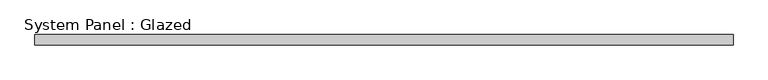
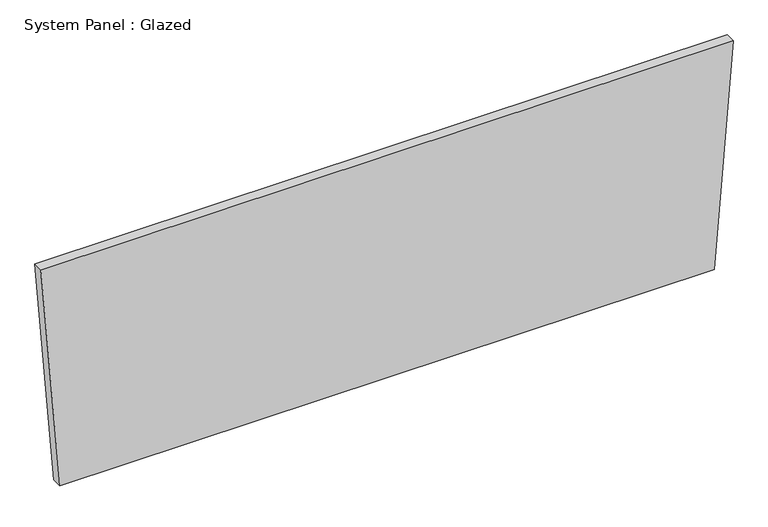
"""IFC4 building model written with IfcOpenShell, lengths in millimetres: plate geometry, System Panel : Glazed."""

from ifc_helpers import new_model, si_unit, frame, origin, place, context, project, spatial, polyline, outline, extrude, source, transform, mapped, element, save


def system_panel_glazed_185d81c2(model_context):
    return source(origin(), model_context, "Body", "SweptSolid", [
        extrude(outline(polyline([(0.0, -809.4514632), (0.0, 809.4514632), (582.2023947, 856.7002596), (582.2023947, -856.7002596), (0.0, -809.4514632)])), frame((0.0, -44.45, 0.0), z_axis=(0.0, 1.0, 0.0), x_axis=(0.0, 0.0, 1.0)), (0.0, 0.0, 1.0), 25.4),
    ])


if __name__ == "__main__":
    model = new_model("IFC4")
    model_context = context("Model", 3, world=origin())
    ifc_project = project(units=[si_unit("LENGTHUNIT", "METRE", prefix="MILLI")], contexts=[model_context])
    site = spatial("IfcSite", under=ifc_project)
    building = spatial("IfcBuilding", under=site)
    placement = place(None, origin())
    system_panel_glazed_shape = system_panel_glazed_185d81c2(model_context)
    element("IfcPlate", 1, ObjectType="System Panel : Glazed", at=placement, inside=building, context=model_context, shape_type="MappedRepresentation", body=[
        mapped(system_panel_glazed_shape, transform((0.0, 0.0, 0.0), x_axis=(1.0, 0.0, 0.0), y_axis=(0.0, 1.0, 0.0), z_axis=(0.0, 0.0, 1.0))),
    ])
    save(model, "model.ifc")
